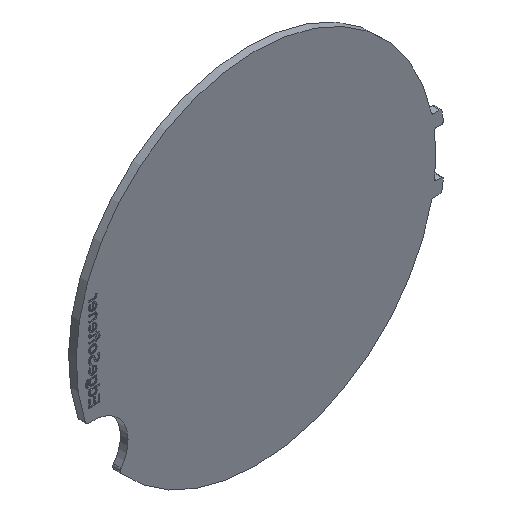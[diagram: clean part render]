
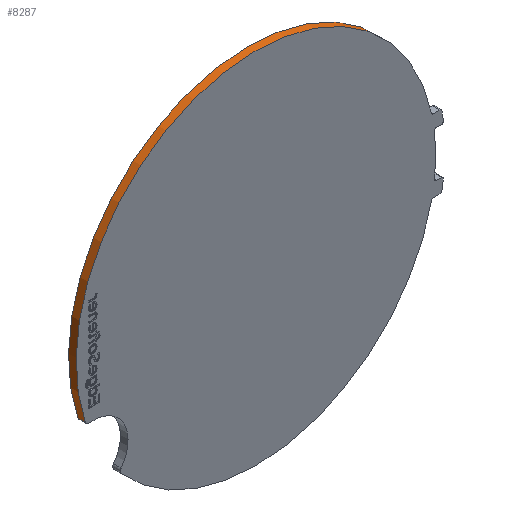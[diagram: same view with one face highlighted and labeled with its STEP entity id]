
A CAD part, isometric view. The second image highlights one B-rep face of the part: STEP entity #8287.
In plain terms, the highlighted cylindrical face has radius 47 mm (diameter 94 mm), a partial arc.
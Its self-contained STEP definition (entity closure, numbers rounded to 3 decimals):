
#364 = DIRECTION ( 'NONE',  ( 0., -1., 0. ) ) ;
#514 = AXIS2_PLACEMENT_3D ( 'NONE', #8304, #364, #8336 ) ;
#649 = CIRCLE ( 'NONE', #2326, 47. ) ;
#802 = ORIENTED_EDGE ( 'NONE', *, *, #4922, .F. ) ;
#1634 = VECTOR ( 'NONE', #8302, 1000. ) ;
#1800 = CARTESIAN_POINT ( 'NONE',  ( -44.579, 0., -14.889 ) ) ;
#2326 = AXIS2_PLACEMENT_3D ( 'NONE', #7129, #8584, #5705 ) ;
#2650 = ORIENTED_EDGE ( 'NONE', *, *, #7139, .T. ) ;
#2919 = EDGE_CURVE ( 'NONE', #7108, #7859, #7803, .T. ) ;
#3316 = VERTEX_POINT ( 'NONE', #4324 ) ;
#4324 = CARTESIAN_POINT ( 'NONE',  ( 45.947, 0., 9.895 ) ) ;
#4326 = ORIENTED_EDGE ( 'NONE', *, *, #6956, .T. ) ;
#4731 = CARTESIAN_POINT ( 'NONE',  ( 45.947, 2., 9.895 ) ) ;
#4922 = EDGE_CURVE ( 'NONE', #7108, #5302, #4940, .T. ) ;
#4940 = CIRCLE ( 'NONE', #4945, 47. ) ;
#4945 = AXIS2_PLACEMENT_3D ( 'NONE', #5090, #5882, #5909 ) ;
#5013 = FACE_OUTER_BOUND ( 'NONE', #7319, .T. ) ;
#5042 = CARTESIAN_POINT ( 'NONE',  ( 45.947, 2., 9.895 ) ) ;
#5068 = ORIENTED_EDGE ( 'NONE', *, *, #2919, .T. ) ;
#5090 = CARTESIAN_POINT ( 'NONE',  ( 0., 2., 0. ) ) ;
#5302 = VERTEX_POINT ( 'NONE', #5042 ) ;
#5374 = LINE ( 'NONE', #4731, #1634 ) ;
#5449 = VECTOR ( 'NONE', #6385, 1000. ) ;
#5476 = CARTESIAN_POINT ( 'NONE',  ( -44.579, 2., -14.889 ) ) ;
#5670 = CARTESIAN_POINT ( 'NONE',  ( -44.579, 2., -14.889 ) ) ;
#5705 = DIRECTION ( 'NONE',  ( 0., 0., 1. ) ) ;
#5882 = DIRECTION ( 'NONE',  ( 0., 1., 0. ) ) ;
#5909 = DIRECTION ( 'NONE',  ( 0., 0., 1. ) ) ;
#6385 = DIRECTION ( 'NONE',  ( 0., -1., 0. ) ) ;
#6956 = EDGE_CURVE ( 'NONE', #3316, #5302, #5374, .T. ) ;
#7108 = VERTEX_POINT ( 'NONE', #5476 ) ;
#7129 = CARTESIAN_POINT ( 'NONE',  ( 0., 0., 0. ) ) ;
#7139 = EDGE_CURVE ( 'NONE', #7859, #3316, #649, .T. ) ;
#7319 = EDGE_LOOP ( 'NONE', ( #2650, #4326, #802, #5068 ) ) ;
#7803 = LINE ( 'NONE', #5670, #5449 ) ;
#7859 = VERTEX_POINT ( 'NONE', #1800 ) ;
#8154 = CYLINDRICAL_SURFACE ( 'NONE', #514, 47. ) ;
#8287 = ADVANCED_FACE ( 'NONE', ( #5013 ), #8154, .T. ) ;
#8302 = DIRECTION ( 'NONE',  ( 0., 1., 0. ) ) ;
#8304 = CARTESIAN_POINT ( 'NONE',  ( 0., 2., 0. ) ) ;
#8336 = DIRECTION ( 'NONE',  ( 0., 0., -1. ) ) ;
#8584 = DIRECTION ( 'NONE',  ( 0., 1., 0. ) ) ;
